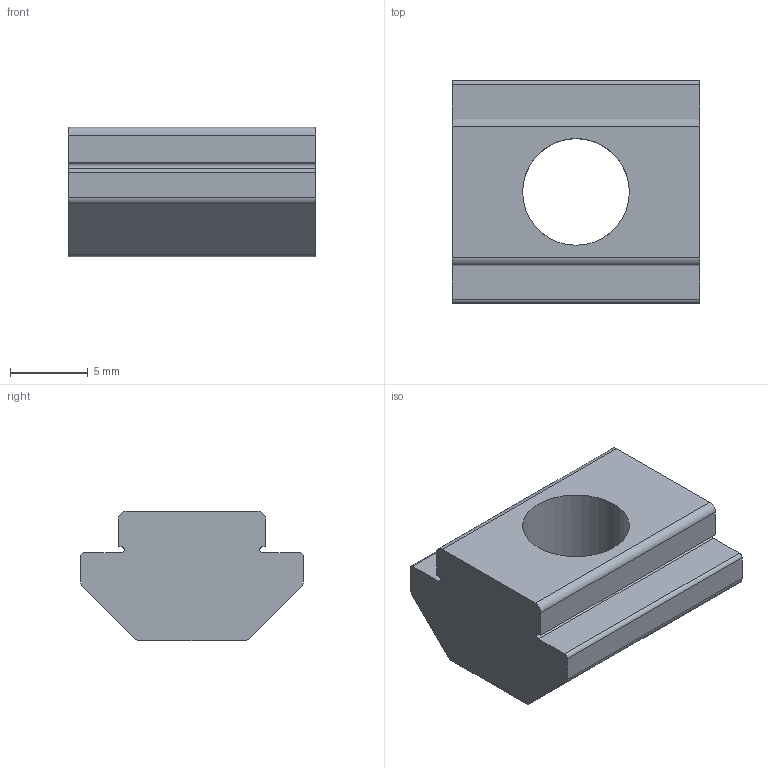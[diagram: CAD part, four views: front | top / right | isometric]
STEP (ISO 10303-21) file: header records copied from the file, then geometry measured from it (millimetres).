
FILE_DESCRIPTION((''),'2;1');
FILE_NAME('202390M','2023-02-28T',('jenni.wallner'),(''),'PRO/ENGINEER BY PARAMETRIC TECHNOLOGY CORPORATION, 2012420','PRO/ENGINEER BY PARAMETRIC TECHNOLOGY CORPORATION, 2012420','');
FILE_SCHEMA(('CONFIG_CONTROL_DESIGN'));
Length unit declared in the file: inch
Products named in the file (1): 202390M
Bounding box: 15.88 x 14.3 x 8.33 mm (x, y, z)
Volume: 1169 mm3; surface area: 950.8 mm2
Topology: 1 solids, 1 shells, 27 faces, 78 edges, 52 vertices
Faces by surface type: plane 15, cylinder 12
Entity records: 946 total; most frequent: CARTESIAN_POINT 165, DIRECTION 156, ORIENTED_EDGE 156, EDGE_CURVE 78, AXIS2_PLACEMENT_3D 53, VERTEX_POINT 52, VECTOR 50, LINE 50
